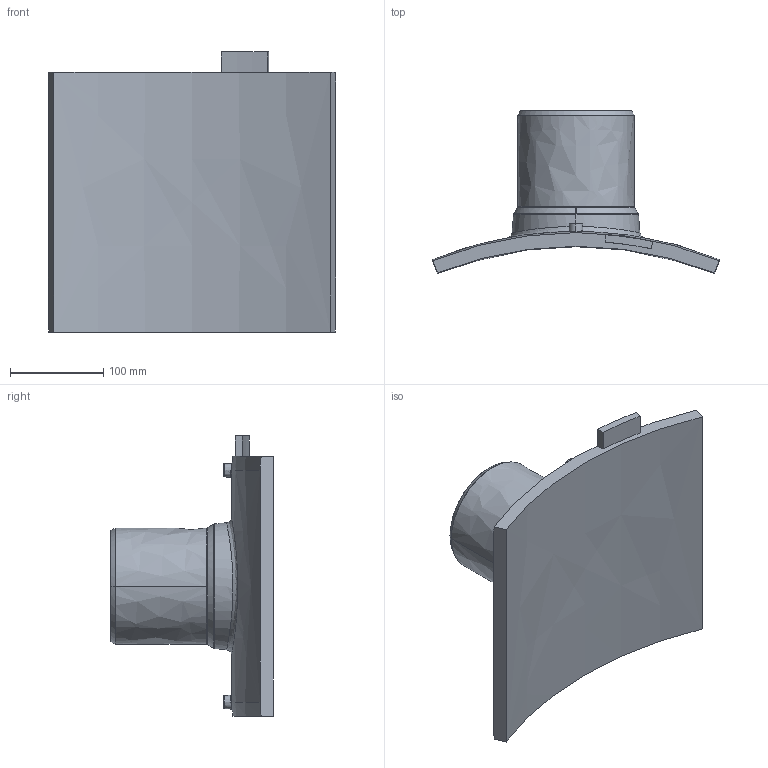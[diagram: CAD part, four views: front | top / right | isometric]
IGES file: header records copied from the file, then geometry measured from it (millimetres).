
Start section:  PTC IGES file: sa-uni_d800_125_01.igs
Global section: file name: sa-uni_d800_125_01.igs; native system: Pro/ENGINEER by Parametric Technology Corporation; preprocessor: 2011490; author: MikulicP; organization: Unknown; date: 20170206.142716; units: millimetre
Bounding box: 308.74 x 174.65 x 301 mm (x, y, z)
Surface area: 294910.5 mm2 (no closed solid volume)
Topology: 0 solids, 0 shells, 200 faces, 984 edges, 984 vertices
Faces by surface type: bspline 200
